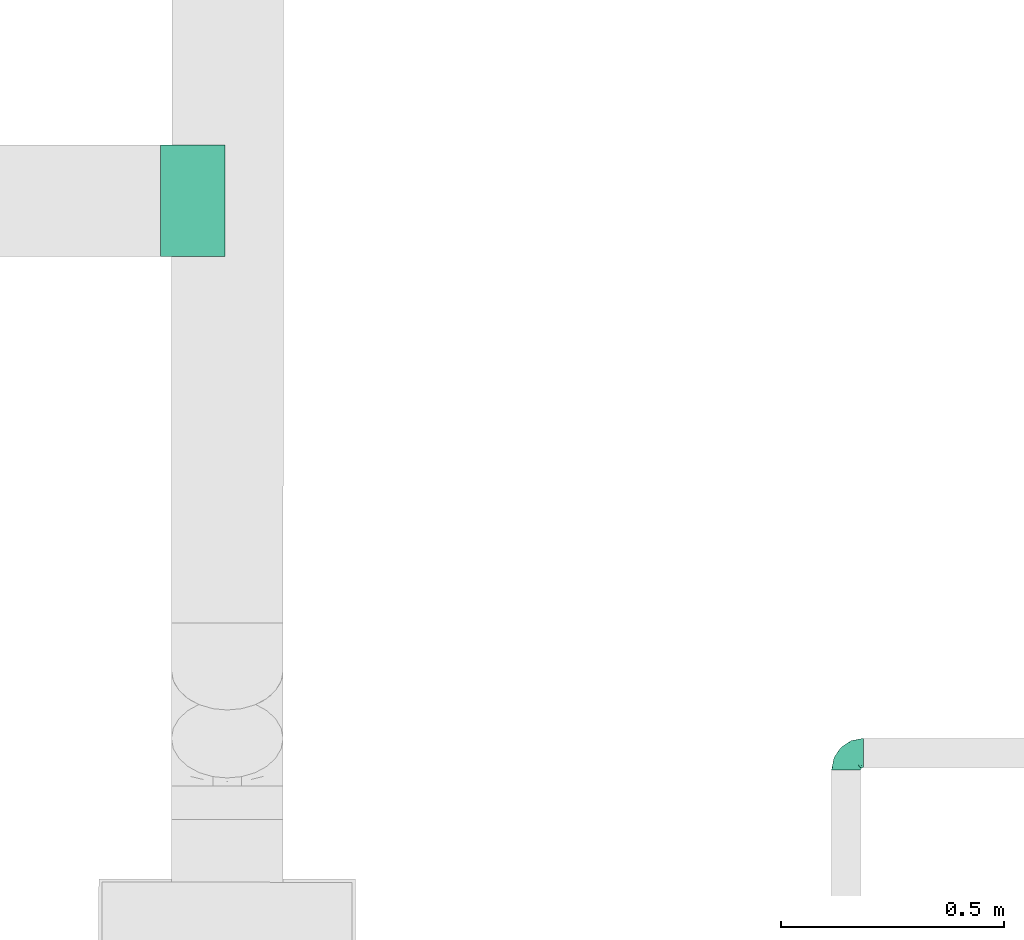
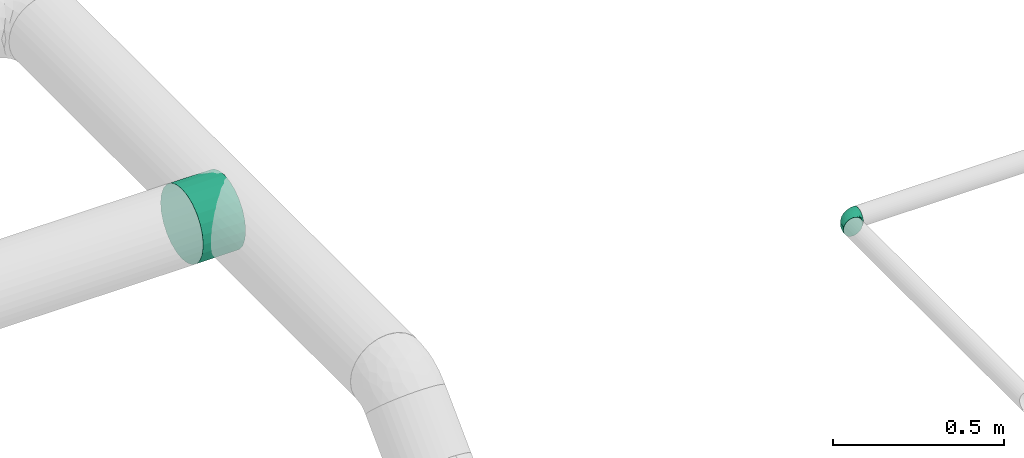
# One storey, part 46 of 63: 2 flow fittings.
"""IFC2X3 building model written with IfcOpenShell, lengths in millimetres."""

from ifc_helpers import new_model, entity, si_unit, converted_unit, derived_unit, direction, frame, origin_with_axes, place, context, subcontext, project, spatial, open_shell, surface_model, source, transform, mapped, type_object, element, save


model = new_model("IFC2X3")

# Units and contexts
model_context = context("Model", 3, precision=0.01, world=frame((0.0, 4.29681676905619e-09, 0.0)), true_north=direction((4.01073788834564e-13, 1.0)))
plan_context = context("Plan", 3, precision=0.01, world=frame((0.0, 4.29681676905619e-09, 0.0)), true_north=direction((4.01073788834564e-13, 1.0)))
body_context = subcontext(model_context, "Body", "Model", "MODEL_VIEW")
ifc_project = project(units=[converted_unit("PLANEANGLEUNIT", "DEGREE", entity("IfcPositiveLengthMeasure", 0.0174532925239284), si_unit("PLANEANGLEUNIT", "RADIAN"), dimensions=[0, 0, 0, 0, 0, 0, 0]), si_unit("AREAUNIT", "SQUARE_METRE"), si_unit("LENGTHUNIT", "METRE", prefix="MILLI"), si_unit("MASSUNIT", "GRAM", prefix="KILO"), si_unit("POWERUNIT", "WATT"), si_unit("PRESSUREUNIT", "PASCAL"), si_unit("FORCEUNIT", "NEWTON", prefix="KILO"), si_unit("ELECTRICVOLTAGEUNIT", "VOLT"), si_unit("ELECTRICCURRENTUNIT", "AMPERE"), si_unit("THERMODYNAMICTEMPERATUREUNIT", "DEGREE_CELSIUS"), si_unit("TIMEUNIT", "SECOND"), si_unit("VOLUMEUNIT", "CUBIC_METRE"), derived_unit("LINEARVELOCITYUNIT", [(si_unit("LENGTHUNIT", "METRE"), 1), (si_unit("TIMEUNIT", "SECOND"), -1)]), derived_unit("VOLUMETRICFLOWRATEUNIT", [(si_unit("VOLUMEUNIT", "CUBIC_METRE"), 1), (si_unit("TIMEUNIT", "SECOND"), -1)]), derived_unit("THERMALTRANSMITTANCEUNIT", [(si_unit("POWERUNIT", "WATT"), 1), (si_unit("THERMODYNAMICTEMPERATUREUNIT", "KELVIN"), -1), (si_unit("AREAUNIT", "SQUARE_METRE"), -1)]), derived_unit("SOUNDPRESSUREUNIT", [(si_unit("PRESSUREUNIT", "PASCAL"), 1)])], contexts=[model_context, plan_context])

# Site, building, storey
site_placement = place(None, frame((0.0, -4.29681676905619e-09, 0.0), z_axis=(0.0, 0.0, 1.0), x_axis=(1.0, 0.0, 0.0)))
site = spatial("IfcSite", under=ifc_project, at=site_placement, CompositionType="ELEMENT")
building_placement = place(site_placement, frame((0.0, 4.29681676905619e-09, 0.0), z_axis=(0.0, 0.0, 1.0), x_axis=(1.0, 0.0, 0.0)))
building = spatial("IfcBuilding", under=site, at=building_placement, Name="mc-building", CompositionType="ELEMENT")
storey_placement = place(building_placement, frame((0.0, 0.0, 210900.0), z_axis=(0.0, 0.0, 1.0), x_axis=(1.0, 0.0, 0.0)))
storey = spatial("IfcBuildingStorey", under=building, at=storey_placement, Name="Nivå F", CompositionType="ELEMENT", Elevation=210900.0)

# Flow fittings
duct_fitting_type_1 = type_object("IfcDuctFittingType", Name="magicirc_tapoutlet_001", PredefinedType="CONNECTOR")
shared_shape_1 = source(origin_with_axes(), body_context, "Body", "SurfaceModel", [
    surface_model("IfcShellBasedSurfaceModel", [(-118.904, 0.0, -125.0), (-118.904, -32.35238, -120.74073), (-118.904, 32.35238, -120.74073), (-118.904, 120.74073, 32.35238), (-118.904, 62.5, -108.25318), (-118.904, 88.38835, -88.38835), (-118.904, 108.25318, -62.5), (-118.904, -125.0, 0.0), (-118.904, -120.74073, 32.35238), (-118.904, -88.38835, -88.38835), (-118.904, -62.5, -108.25318), (-118.904, -120.74073, -32.35238), (-118.904, -108.25318, -62.5), (-118.904, 120.74073, -32.35238), (-118.904, 108.25318, 62.5), (-118.904, 62.5, 108.25318), (-118.904, 32.35238, 120.74073), (-118.904, 88.38835, 88.38835), (-118.904, 0.0, 125.0), (-118.904, -108.25318, 62.5), (-118.904, -88.38835, 88.38835), (-118.904, -32.35238, 120.74073), (-118.904, -62.5, 108.25318), (-118.904, 125.0, 0.0), (0.0, 0.0, 125.0), (0.0, 32.35238, 120.74073), (0.0, 62.5, 108.25318), (0.0, 88.38835, 88.38835), (0.0, 108.25318, 62.5), (0.0, 120.74073, 32.35238), (0.0, 125.0, 0.0), (0.0, 120.74073, -32.35238), (0.0, 108.25318, -62.5), (0.0, 88.38835, -88.38835), (0.0, 62.5, -108.25318), (0.0, 32.35238, -120.74073), (0.0, 0.0, -125.0), (0.0, -32.35238, -120.74073), (0.0, -62.5, -108.25318), (0.0, -88.38835, -88.38835), (0.0, -108.25318, -62.5), (0.0, -120.74073, -32.35238), (0.0, -125.0, 0.0), (0.0, -120.74073, 32.35238), (0.0, -108.25318, 62.5), (0.0, -88.38835, 88.38835), (0.0, -62.5, 108.25318), (0.0, -32.35238, 120.74073), (25.0, 62.5, -108.25318), (25.0, 125.0, 0.0), (25.0, 32.35238, -120.74073), (25.0, -88.38835, -88.38835), (25.0, 0.0, -125.0), (25.0, -120.74073, 32.35238), (25.0, -62.5, -108.25318), (25.0, -32.35238, -120.74073), (25.0, -108.25318, -62.5), (25.0, -120.74073, -32.35238), (25.0, -125.0, 0.0), (25.0, 108.25318, -62.5), (25.0, 120.74073, -32.35238), (25.0, 120.74073, 32.35238), (25.0, 108.25318, 62.5), (25.0, 88.38835, 88.38835), (25.0, 32.35238, 120.74073), (25.0, 62.5, 108.25318), (25.0, -62.5, 108.25318), (25.0, -88.38835, 88.38835), (25.0, -108.25318, 62.5), (25.0, 0.0, 125.0), (25.0, -32.35238, 120.74073), (25.0, 88.38835, -88.38835)], [open_shell([[[0, 1, 2]], [[2, 3, 4]], [[5, 3, 6]], [[4, 3, 5]], [[2, 7, 8]], [[9, 7, 10]], [[2, 1, 10]], [[11, 7, 12]], [[9, 12, 7]], [[10, 7, 2]], [[13, 6, 3]], [[14, 3, 2]], [[15, 14, 2]], [[15, 2, 16]], [[17, 14, 15]], [[18, 16, 2]], [[8, 19, 2]], [[19, 20, 2]], [[21, 18, 22]], [[20, 22, 18]], [[2, 20, 18]], [[23, 13, 3]], [[16, 24, 25]], [[15, 25, 26]], [[18, 24, 16]], [[16, 25, 15]], [[26, 17, 15]], [[26, 27, 17]], [[3, 28, 29]], [[23, 29, 30]], [[27, 14, 17]], [[27, 28, 14]], [[14, 28, 3]], [[29, 23, 3]], [[31, 32, 6]], [[30, 31, 23]], [[23, 31, 13]], [[5, 6, 32]], [[31, 6, 13]], [[32, 33, 5]], [[2, 34, 35]], [[0, 35, 36]], [[33, 4, 5]], [[33, 34, 4]], [[4, 34, 2]], [[35, 0, 2]], [[1, 36, 37]], [[10, 37, 38]], [[0, 36, 1]], [[1, 37, 10]], [[38, 9, 10]], [[38, 39, 9]], [[11, 40, 41]], [[7, 41, 42]], [[39, 12, 9]], [[39, 40, 12]], [[12, 40, 11]], [[41, 7, 11]], [[8, 42, 43]], [[19, 43, 44]], [[7, 42, 8]], [[8, 43, 19]], [[44, 20, 19]], [[44, 45, 20]], [[21, 46, 47]], [[18, 47, 24]], [[45, 22, 20]], [[45, 46, 22]], [[22, 46, 21]], [[47, 18, 21]], [[2, 17, 14]], [[15, 17, 2]], [[2, 20, 22]], [[18, 2, 22]], [[48, 49, 50]], [[51, 52, 53]], [[52, 51, 54]], [[54, 55, 52]], [[56, 53, 57]], [[53, 58, 57]], [[49, 59, 60]], [[61, 62, 52]], [[52, 62, 63]], [[64, 52, 65]], [[52, 63, 65]], [[66, 52, 64]], [[67, 68, 52]], [[64, 69, 70]], [[24, 69, 64]], [[25, 64, 65]], [[24, 64, 25]], [[26, 63, 27]], [[26, 25, 65]], [[63, 26, 65]], [[28, 62, 61]], [[29, 61, 49]], [[27, 62, 28]], [[29, 28, 61]], [[30, 29, 49]], [[62, 27, 63]], [[30, 49, 60]], [[31, 60, 59]], [[30, 60, 31]], [[32, 71, 33]], [[32, 31, 59]], [[71, 32, 59]], [[50, 52, 36]], [[48, 50, 35]], [[33, 48, 34]], [[36, 35, 50]], [[48, 35, 34]], [[48, 33, 71]], [[36, 52, 55]], [[37, 55, 54]], [[36, 55, 37]], [[38, 51, 39]], [[38, 37, 54]], [[51, 38, 54]], [[40, 56, 57]], [[41, 57, 58]], [[39, 56, 40]], [[41, 40, 57]], [[42, 41, 58]], [[56, 39, 51]], [[42, 58, 53]], [[43, 53, 68]], [[42, 53, 43]], [[44, 67, 45]], [[44, 43, 68]], [[67, 44, 68]], [[46, 66, 70]], [[47, 70, 69]], [[45, 66, 46]], [[47, 46, 70]], [[24, 47, 69]], [[66, 45, 67]], [[56, 51, 53]], [[58, 57, 53]], [[67, 52, 66]], [[64, 70, 66]], [[49, 61, 52]], [[50, 49, 52]], [[71, 59, 49]], [[71, 49, 48]], [[52, 54, 55]], [[52, 62, 65]], [[65, 62, 63]], [[52, 64, 66]], [[52, 68, 53]], [[62, 52, 61]], [[65, 64, 52]], [[52, 67, 68]], [[52, 66, 67]], [[69, 70, 64]], [[52, 49, 61]]])]),
])
flow_fitting_1_placement = place(storey_placement, frame((533979.74143, 459787.96966, 4200.0), z_axis=(0.0, 0.0, -1.0), x_axis=(-0.999999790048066, 0.000647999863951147, 0.0)))
element("IfcFlowFitting", 1, at=flow_fitting_1_placement, inside=storey, type_object=duct_fitting_type_1, Name="magicirc_tapoutlet_001", context=body_context, shape_type="MappedRepresentation", body=[
    mapped(shared_shape_1, transform((0.0, 0.0, 0.0), scale=1.0)),
])
duct_fitting_type_2 = type_object("IfcDuctFittingType", Name="magicirc_elbow_short_001", PredefinedType="BEND")
shared_shape_2 = source(origin_with_axes(), body_context, "Body", "SurfaceModel", [
    surface_model("IfcShellBasedSurfaceModel", [(-39.0, 16.25, -28.14582), (-39.0, 8.41162, -31.39259), (-39.0, 0.0, -32.5), (-39.0, 28.14582, -16.25), (-39.0, 31.39259, -8.41162), (-39.0, 22.98097, -22.98097), (-39.0, -31.39259, -8.41162), (-39.0, -22.98097, -22.98097), (-39.0, -16.25, -28.14582), (-39.0, -8.41162, -31.39259), (-39.0, -28.14582, -16.25), (-39.0, -32.5, 0.0), (-39.0, -31.39259, 8.41162), (-39.0, 16.25, 28.14582), (-39.0, 31.39259, 8.41162), (-39.0, 28.14582, 16.25), (-39.0, 22.98097, 22.98097), (-39.0, -22.98097, 22.98097), (-39.0, 8.41162, 31.39259), (-39.0, -28.14582, 16.25), (-39.0, -8.41162, 31.39259), (-39.0, 0.0, 32.5), (-39.0, -16.25, 28.14582), (-39.0, 32.5, 0.0), (0.0, 39.0, -32.5), (-8.41162, 39.0, -31.39259), (-16.25, 39.0, -28.14582), (-28.14582, 39.0, -16.25), (-31.39259, 39.0, -8.41162), (-22.98097, 39.0, -22.98097), (31.39259, 39.0, -8.41162), (16.25, 39.0, -28.14582), (22.98097, 39.0, -22.98097), (8.41162, 39.0, -31.39259), (28.14582, 39.0, -16.25), (31.39259, 39.0, 8.41162), (32.5, 39.0, 0.0), (-16.25, 39.0, 28.14582), (-31.39259, 39.0, 8.41162), (-22.98097, 39.0, 22.98097), (-28.14582, 39.0, 16.25), (22.98097, 39.0, 22.98097), (-8.41162, 39.0, 31.39259), (28.14582, 39.0, 16.25), (16.25, 39.0, 28.14582), (0.0, 39.0, 32.5), (8.41162, 39.0, 31.39259), (-32.5, 39.0, 0.0), (11.76834, 12.131, 26.76213), (17.76928, 18.80209, 24.58577), (14.03034, 25.58403, 28.4557), (-27.39207, -30.14132, 9.40651), (-16.92918, -27.775, 8.64922), (-22.39985, -26.18081, 16.04807), (-32.4644, 9.10615, 31.39569), (-30.51954, 18.82994, 27.62549), (15.43295, -5.75907, 0.0), (13.75377, -8.57062, 5.47997), (11.55813, -11.55813, 0.0), (-12.131, -11.76835, 26.76213), (-19.40187, -5.53363, 31.03267), (-25.58403, -14.03034, 28.4557), (-27.27224, -21.02467, 23.77394), (-18.80209, -17.76928, 24.58577), (-31.88666, -26.50709, 18.24996), (-30.16778, -5.83561, 31.80246), (-11.04568, 28.02334, 31.23824), (-2.56194, 28.69837, 32.48022), (21.02468, 27.27224, 23.77394), (22.33368, 18.79773, 20.05395), (26.18081, 22.39985, 16.04807), (7.96389, -4.30748, 20.90561), (-1.78002, -11.49647, 22.20526), (-0.5074, -15.22672, 17.3209), (-26.22831, 11.18008, 31.39878), (-28.29822, 2.55195, 32.4842), (-16.96398, 6.14377, 32.49515), (-39.0, 12.33081, 29.76921), (-31.08223, -30.92506, 0.0), (-18.81028, 30.83549, 27.56184), (-27.05605, 27.05605, 23.82131), (-21.31898, 21.55691, 29.25169), (-33.74024, 33.74024, 7.75348), (-34.4038, 34.4038, 0.0), (-6.66284, 20.84558, 32.44351), (-33.48254, 25.2926, 21.66693), (-34.20254, 28.80556, 16.94471), (30.14132, 27.39207, 9.40651), (30.92506, 31.08223, 0.0), (-9.81809, -21.93366, 15.50861), (-7.84714, -23.61287, 9.96443), (-2.62833, -19.50659, 12.75931), (5.83561, 30.16778, 31.80246), (-5.03489, 10.31945, 32.03901), (-10.41291, 0.51353, 31.24567), (29.35011, 23.16445, 0.0), (27.67026, 16.32938, 8.3112), (27.05739, 11.63813, 0.0), (-23.16445, -29.35011, 0.0), (26.50709, 31.88666, 18.24996), (-31.07233, 32.06878, 15.67587), (5.53363, 19.40187, 31.03267), (-25.2926, 33.48254, 21.66693), (-5.83907, -23.18257, 0.0), (0.75535, -19.50821, 7.00173), (-13.70334, 16.25871, 32.11557), (18.74181, 10.66169, 20.37406), (-19.15604, 11.81156, 32.05829), (-11.63813, -27.05739, 0.0), (-0.39882, 20.84724, 32.29366), (-17.59128, -22.63305, 19.1684), (-0.79288, 0.79288, 28.8142), (2.58034, 9.78762, 30.27585), (16.69212, -2.73243, 10.96853), (12.75699, -3.83851, 16.18066), (10.93722, -9.3747, 11.15462), (18.97429, 4.16902, 15.37545), (23.93292, 6.30619, 6.12024), (6.45891, 4.86455, 27.16034), (14.08886, 2.56989, 20.29265), (3.3809, -2.63971, 25.28882), (-7.69024, -5.28324, 28.70855), (-10.66169, -18.74181, 20.37407), (23.52715, 11.19447, 13.7866), (19.30776, 0.04, 0.0), (23.18257, 5.83907, 0.0), (4.20237, -14.97813, 12.16315), (8.00223, -14.1489, 5.94951), (5.75907, -15.43295, 0.0), (-0.04, -19.30776, 0.0), (-9.10615, 32.4644, -31.39569), (-11.18008, 26.2283, -31.39878), (-18.82994, 30.51954, -27.62549), (-31.88666, -26.50709, -18.24996), (-28.02334, 11.04568, -31.23824), (-28.69837, 2.56194, -32.48022), (-32.06878, 31.07233, -15.67587), (-27.05605, 27.05605, -23.82131), (-33.48254, 25.2926, -21.66693), (19.50821, -0.75535, -7.00173), (23.61287, 7.84714, -9.96443), (-16.32938, -27.67026, -8.3112), (-12.131, -11.76835, -26.76213), (-10.66169, -18.74181, -20.37407), (-18.80209, -17.76928, -24.58577), (-10.31945, 5.03489, -32.03901), (-6.14378, 16.96398, -32.49515), (-0.51353, 10.4129, -31.24567), (-16.25871, 13.70333, -32.11557), (-27.39207, -30.14132, -9.40651), (-2.55195, 28.29821, -32.4842), (-27.27224, -21.02467, -23.77394), (-18.79773, -22.33368, -20.05395), (-22.39985, -26.18081, -16.04807), (-25.58403, -14.03034, -28.4557), (-30.83549, 18.81028, -27.56184), (-21.55691, 21.31898, -29.25169), (-30.16778, -5.83561, -31.80246), (21.93365, 9.81809, -15.50861), (27.775, 16.92918, -8.64922), (30.14132, 27.39207, -9.40651), (-33.74024, 33.74024, -7.75348), (-28.80556, 34.20254, -16.94471), (-19.40187, -5.53363, -31.03267), (-25.2926, 33.48254, -21.66694), (4.30748, -7.96389, -20.90561), (11.49647, 1.78002, -22.20526), (15.22671, 0.5074, -17.3209), (-12.33081, 39.0, -29.76921), (14.03034, 25.58403, -28.4557), (5.53363, 19.40187, -31.03267), (5.83561, 30.16778, -31.80246), (21.02467, 27.27224, -23.77394), (26.50709, 31.88666, -18.24996), (11.76834, 12.131, -26.76213), (19.50659, 2.62832, -12.75931), (26.18081, 22.39985, -16.04807), (-20.84558, 6.66283, -32.44351), (17.76928, 18.80209, -24.58577), (8.57062, -13.75377, -5.47997), (-11.81157, 19.15604, -32.05829), (-20.84724, 0.39882, -32.29366), (22.63305, 17.59128, -19.1684), (-0.79288, 0.79288, -28.8142), (-9.78762, -2.58035, -30.27585), (2.73243, -16.69212, -10.96853), (3.83851, -12.757, -16.18066), (9.3747, -10.93722, -11.15462), (-4.16902, -18.97429, -15.37545), (-6.30619, -23.93292, -6.12024), (-4.86455, -6.45891, -27.16034), (-2.56989, -14.08887, -20.29265), (2.63971, -3.3809, -25.28882), (5.28323, 7.69024, -28.70855), (18.74181, 10.66169, -20.37407), (-11.19448, -23.52715, -13.78661), (14.97813, -4.20237, -12.16315), (14.1489, -8.00223, -5.94952)], [open_shell([[[0, 1, 2]], [[3, 0, 2]], [[2, 4, 3]], [[5, 0, 3]], [[6, 4, 2]], [[7, 6, 8]], [[2, 9, 8]], [[10, 6, 7]], [[6, 2, 8]], [[6, 11, 12]], [[13, 4, 6]], [[13, 14, 4]], [[15, 14, 16]], [[13, 6, 17]], [[16, 14, 13]], [[13, 17, 18]], [[19, 17, 12]], [[12, 17, 6]], [[20, 21, 22]], [[17, 22, 21]], [[17, 21, 18]], [[23, 4, 14]], [[24, 25, 26]], [[24, 26, 27]], [[27, 28, 24]], [[27, 26, 29]], [[24, 28, 30]], [[31, 30, 32]], [[31, 33, 24]], [[32, 30, 34]], [[24, 30, 31]], [[30, 35, 36]], [[30, 28, 37]], [[28, 38, 37]], [[39, 38, 40]], [[41, 30, 37]], [[37, 38, 39]], [[42, 41, 37]], [[35, 41, 43]], [[30, 41, 35]], [[44, 45, 46]], [[45, 44, 41]], [[42, 45, 41]], [[38, 28, 47]], [[48, 49, 50]], [[51, 52, 53]], [[54, 55, 13]], [[56, 57, 58]], [[59, 60, 61]], [[61, 62, 63]], [[64, 17, 19]], [[62, 61, 22]], [[65, 21, 20]], [[42, 66, 67]], [[68, 69, 70]], [[61, 60, 65]], [[71, 72, 73]], [[74, 75, 76]], [[20, 22, 61]], [[13, 55, 16]], [[13, 77, 54]], [[51, 12, 78]], [[79, 80, 81]], [[23, 82, 83]], [[84, 67, 66]], [[23, 14, 82]], [[85, 86, 15]], [[87, 88, 35]], [[15, 16, 85]], [[37, 79, 66]], [[89, 90, 91]], [[22, 17, 62]], [[44, 68, 41]], [[18, 21, 75]], [[50, 46, 92]], [[44, 46, 50]], [[93, 76, 94]], [[95, 87, 96]], [[97, 95, 96]], [[50, 68, 44]], [[77, 18, 54]], [[35, 43, 87]], [[98, 51, 78]], [[41, 99, 43]], [[37, 39, 79]], [[38, 100, 40]], [[48, 50, 101]], [[100, 80, 102]], [[51, 19, 12]], [[83, 82, 47]], [[103, 104, 90]], [[37, 66, 42]], [[66, 79, 81]], [[105, 76, 93]], [[48, 106, 49]], [[39, 40, 102]], [[42, 67, 45]], [[89, 52, 90]], [[82, 100, 38]], [[92, 46, 45]], [[86, 14, 15]], [[61, 63, 59]], [[65, 75, 21]], [[107, 76, 105]], [[74, 107, 81]], [[85, 55, 80]], [[52, 98, 108]], [[64, 51, 53]], [[99, 87, 43]], [[87, 70, 96]], [[102, 79, 39]], [[80, 55, 81]], [[84, 66, 105]], [[67, 109, 92]], [[49, 68, 50]], [[99, 68, 70]], [[64, 62, 17]], [[110, 53, 89]], [[75, 60, 76]], [[94, 76, 60]], [[111, 112, 93]], [[84, 109, 67]], [[113, 114, 115]], [[57, 113, 115]], [[116, 114, 113]], [[80, 86, 85]], [[90, 104, 91]], [[97, 96, 117]], [[118, 119, 48]], [[116, 119, 114]], [[72, 120, 121]], [[112, 48, 101]], [[48, 112, 118]], [[72, 59, 122]], [[94, 121, 111]], [[89, 73, 122]], [[120, 71, 118]], [[74, 81, 55]], [[66, 81, 105]], [[70, 69, 123]], [[123, 117, 96]], [[96, 70, 123]], [[106, 116, 123]], [[117, 113, 124]], [[117, 123, 116]], [[117, 124, 125]], [[67, 92, 45]], [[50, 92, 101]], [[61, 65, 20]], [[75, 65, 60]], [[100, 102, 40]], [[79, 102, 80]], [[55, 85, 16]], [[86, 80, 100]], [[98, 52, 51]], [[105, 93, 84]], [[93, 112, 109]], [[93, 109, 84]], [[92, 109, 101]], [[119, 116, 106]], [[117, 116, 113]], [[48, 119, 106]], [[119, 71, 114]], [[71, 126, 114]], [[115, 114, 126]], [[127, 115, 126]], [[58, 57, 127]], [[104, 127, 126]], [[104, 128, 127]], [[91, 104, 126]], [[90, 108, 103]], [[57, 56, 124]], [[113, 57, 124]], [[127, 57, 115]], [[73, 91, 126]], [[91, 73, 89]], [[71, 73, 126]], [[122, 73, 72]], [[110, 89, 122]], [[52, 89, 53]], [[63, 110, 122]], [[62, 53, 110]], [[128, 104, 129]], [[128, 58, 127]], [[86, 100, 82]], [[82, 14, 86]], [[47, 82, 38]], [[51, 64, 19]], [[62, 64, 53]], [[68, 99, 41]], [[87, 99, 70]], [[74, 55, 54]], [[18, 75, 54]], [[75, 74, 54]], [[12, 11, 78]], [[88, 87, 95]], [[88, 36, 35]], [[69, 49, 106]], [[49, 69, 68]], [[123, 69, 106]], [[110, 63, 62]], [[59, 63, 122]], [[81, 107, 105]], [[74, 76, 107]], [[121, 60, 59]], [[93, 94, 111]], [[60, 121, 94]], [[72, 121, 59]], [[112, 111, 118]], [[109, 112, 101]], [[120, 118, 111]], [[119, 118, 71]], [[121, 120, 111]], [[72, 71, 120]], [[108, 90, 52]], [[129, 104, 103]], [[97, 117, 125]], [[130, 131, 132]], [[7, 133, 10]], [[0, 134, 1]], [[2, 1, 135]], [[136, 137, 138]], [[125, 139, 140]], [[3, 138, 5]], [[108, 98, 141]], [[3, 4, 136]], [[142, 143, 144]], [[145, 146, 147]], [[148, 146, 145]], [[98, 149, 141]], [[25, 24, 150]], [[6, 10, 149]], [[151, 152, 153]], [[151, 8, 154]], [[149, 78, 6]], [[9, 154, 8]], [[134, 155, 156]], [[155, 137, 156]], [[8, 151, 7]], [[9, 2, 157]], [[154, 9, 157]], [[158, 159, 140]], [[95, 160, 88]], [[23, 83, 161]], [[162, 28, 27]], [[47, 28, 161]], [[142, 154, 163]], [[160, 30, 88]], [[162, 27, 164]], [[29, 26, 132]], [[165, 166, 167]], [[26, 168, 130]], [[169, 170, 171]], [[155, 134, 0]], [[27, 29, 164]], [[33, 31, 169]], [[131, 150, 146]], [[31, 172, 169]], [[173, 32, 34]], [[170, 169, 174]], [[158, 140, 175]], [[1, 134, 135]], [[24, 33, 171]], [[0, 5, 155]], [[160, 34, 30]], [[160, 159, 176]], [[177, 135, 134]], [[30, 36, 88]], [[169, 172, 178]], [[130, 132, 26]], [[128, 179, 58]], [[169, 178, 174]], [[161, 4, 23]], [[161, 136, 4]], [[31, 32, 172]], [[171, 150, 24]], [[180, 146, 148]], [[131, 180, 156]], [[164, 132, 137]], [[133, 149, 10]], [[149, 153, 141]], [[159, 95, 97]], [[173, 160, 176]], [[138, 155, 5]], [[137, 132, 156]], [[177, 134, 148]], [[135, 181, 157]], [[144, 151, 154]], [[133, 151, 153]], [[173, 172, 32]], [[182, 176, 158]], [[150, 170, 146]], [[147, 146, 170]], [[183, 184, 145]], [[177, 181, 135]], [[185, 186, 187]], [[179, 185, 187]], [[188, 186, 185]], [[137, 162, 164]], [[140, 139, 175]], [[108, 141, 189]], [[190, 191, 142]], [[188, 191, 186]], [[166, 192, 193]], [[184, 142, 163]], [[142, 184, 190]], [[166, 174, 194]], [[147, 193, 183]], [[158, 167, 194]], [[192, 165, 190]], [[131, 156, 132]], [[134, 156, 148]], [[153, 152, 195]], [[195, 189, 141]], [[141, 153, 195]], [[143, 188, 195]], [[189, 185, 129]], [[189, 195, 188]], [[189, 129, 103]], [[135, 157, 2]], [[154, 157, 163]], [[169, 171, 33]], [[150, 171, 170]], [[136, 138, 3]], [[155, 138, 137]], [[132, 164, 29]], [[162, 137, 136]], [[95, 159, 160]], [[148, 145, 177]], [[145, 184, 181]], [[145, 181, 177]], [[157, 181, 163]], [[191, 188, 143]], [[189, 188, 185]], [[142, 191, 143]], [[191, 165, 186]], [[165, 196, 186]], [[187, 186, 196]], [[197, 187, 196]], [[58, 179, 197]], [[139, 197, 196]], [[139, 56, 197]], [[175, 139, 196]], [[140, 97, 125]], [[179, 128, 129]], [[185, 179, 129]], [[197, 179, 187]], [[167, 175, 196]], [[175, 167, 158]], [[165, 167, 196]], [[194, 167, 166]], [[182, 158, 194]], [[159, 158, 176]], [[178, 182, 194]], [[172, 176, 182]], [[56, 139, 124]], [[56, 58, 197]], [[162, 136, 161]], [[47, 161, 83]], [[161, 28, 162]], [[160, 173, 34]], [[172, 173, 176]], [[151, 133, 7]], [[149, 133, 153]], [[131, 130, 150]], [[25, 150, 130]], [[168, 25, 130]], [[78, 149, 98]], [[78, 11, 6]], [[142, 144, 154]], [[152, 144, 143]], [[144, 152, 151]], [[195, 152, 143]], [[182, 178, 172]], [[174, 178, 194]], [[156, 180, 148]], [[131, 146, 180]], [[193, 170, 174]], [[145, 147, 183]], [[170, 193, 147]], [[166, 193, 174]], [[184, 183, 190]], [[181, 184, 163]], [[192, 190, 183]], [[191, 190, 165]], [[193, 192, 183]], [[166, 165, 192]], [[97, 140, 159]], [[124, 139, 125]], [[108, 189, 103]]])]),
])
flow_fitting_2_placement = place(storey_placement, frame((535489.30082, 458552.24874, 4425.0), z_axis=(0.0, 0.0, 1.0), x_axis=(-1.0, 0.0, 0.0)))
element("IfcFlowFitting", 2, at=flow_fitting_2_placement, inside=storey, type_object=duct_fitting_type_2, Name="magicirc_elbow_short_001", context=body_context, shape_type="MappedRepresentation", body=[
    mapped(shared_shape_2, transform((0.0, 0.0, 0.0), scale=1.0)),
])

save(model, "model.ifc")
